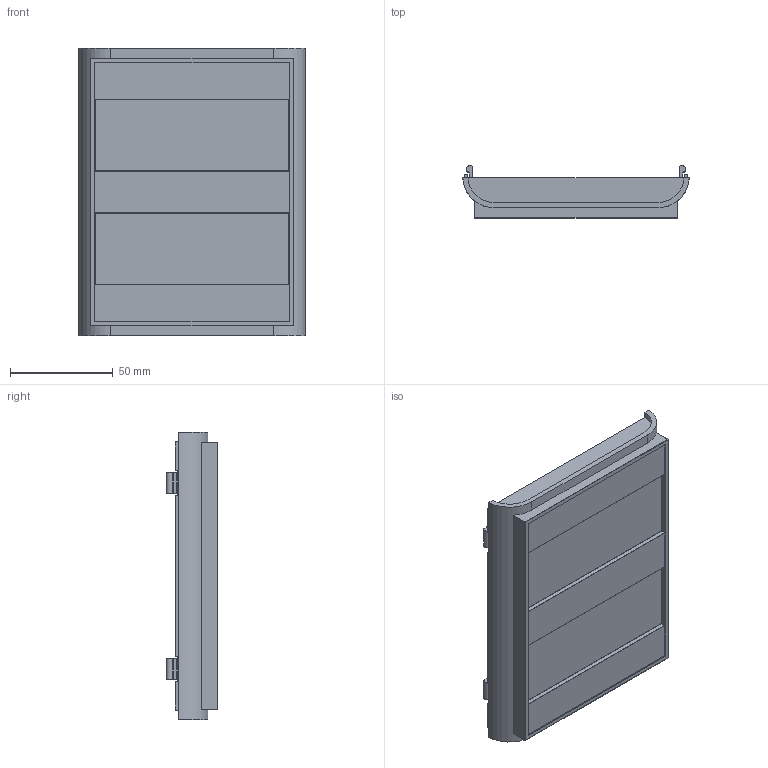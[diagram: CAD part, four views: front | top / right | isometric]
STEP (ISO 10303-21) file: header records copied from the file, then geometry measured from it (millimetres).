
FILE_DESCRIPTION((''),'2;1');
FILE_NAME('E:\Eng\Customer Service\Drawings\1597\STEP\1597C Box.stp','2010-11-01T15:45:30',('tcook'),(''),'Autodesk Inventor 2011','Autodesk Inventor 2011','');
FILE_SCHEMA(('AUTOMOTIVE_DESIGN { 1 0 10303 214 1 1 1 1 }'));
Length unit declared in the file: inch
Products named in the file (1): 1597C Bottom
Bounding box: 109.98 x 25.15 x 139.7 mm (x, y, z)
Volume: 50157.1 mm3; surface area: 49704.6 mm2
Topology: 1 solids, 1 shells, 254 faces, 626 edges, 368 vertices
Faces by surface type: plane 106, cylinder 100, sphere 24, torus 20, bspline 4
Full cylindrical faces by diameter (mm): 2.286 x6, 5.969 x6
Entity records: 7415 total; most frequent: CARTESIAN_POINT 1449, DIRECTION 1304, ORIENTED_EDGE 1172, EDGE_CURVE 586, AXIS2_PLACEMENT_3D 483, VERTEX_POINT 360, VECTOR 338, LINE 338
